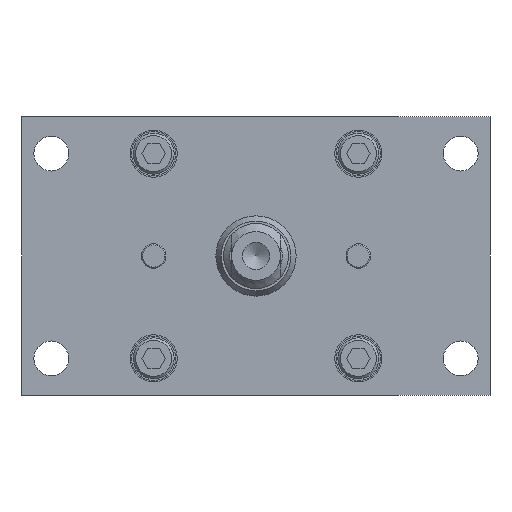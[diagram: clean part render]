
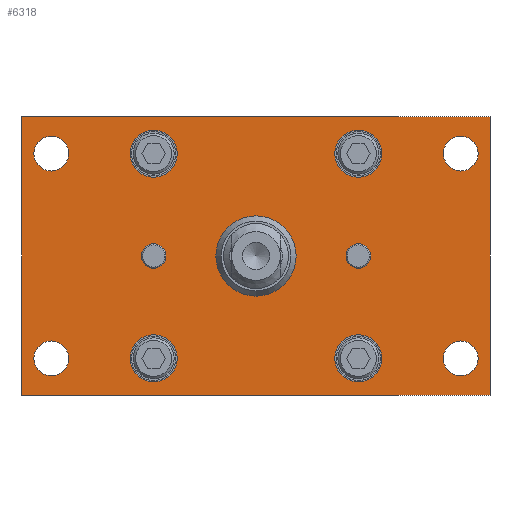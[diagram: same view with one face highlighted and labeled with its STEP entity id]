
A CAD part, front view. The second image highlights one B-rep face of the part: STEP entity #6318.
In plain terms, the highlighted planar face has unit normal (0, -1, 0) as drawn and (0, 0, -1) by its records, which use the part's own axes.
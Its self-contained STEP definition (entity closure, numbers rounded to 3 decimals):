
#164=FACE_BOUND('',#2213,.T.);
#165=FACE_BOUND('',#2214,.T.);
#166=FACE_BOUND('',#2215,.T.);
#167=FACE_BOUND('',#2216,.T.);
#168=FACE_BOUND('',#2217,.T.);
#169=FACE_BOUND('',#2218,.T.);
#170=FACE_BOUND('',#2219,.T.);
#171=FACE_BOUND('',#2220,.T.);
#172=FACE_BOUND('',#2221,.T.);
#173=FACE_BOUND('',#2222,.T.);
#174=FACE_BOUND('',#2223,.T.);
#518=PLANE('',#7174);
#905=LINE('',#10779,#1376);
#908=LINE('',#10784,#1379);
#910=LINE('',#10788,#1381);
#912=LINE('',#10791,#1383);
#1376=VECTOR('',#8713,10.);
#1379=VECTOR('',#8718,10.);
#1381=VECTOR('',#8722,10.);
#1383=VECTOR('',#8726,10.);
#1834=FACE_OUTER_BOUND('',#2212,.T.);
#2212=EDGE_LOOP('',(#5418,#5419,#5420,#5421));
#2213=EDGE_LOOP('',(#5422));
#2214=EDGE_LOOP('',(#5423,#5424));
#2215=EDGE_LOOP('',(#5425,#5426));
#2216=EDGE_LOOP('',(#5427,#5428));
#2217=EDGE_LOOP('',(#5429,#5430));
#2218=EDGE_LOOP('',(#5431,#5432));
#2219=EDGE_LOOP('',(#5433,#5434));
#2220=EDGE_LOOP('',(#5435,#5436));
#2221=EDGE_LOOP('',(#5437,#5438));
#2222=EDGE_LOOP('',(#5439,#5440));
#2223=EDGE_LOOP('',(#5441,#5442));
#2535=CIRCLE('',#7064,9.804);
#2572=CIRCLE('',#7115,3.);
#2573=CIRCLE('',#7116,3.);
#2574=CIRCLE('',#7118,3.);
#2575=CIRCLE('',#7119,3.);
#2576=CIRCLE('',#7121,4.25);
#2577=CIRCLE('',#7122,4.25);
#2578=CIRCLE('',#7124,4.25);
#2579=CIRCLE('',#7125,4.25);
#2580=CIRCLE('',#7127,4.25);
#2581=CIRCLE('',#7128,4.25);
#2582=CIRCLE('',#7130,4.25);
#2583=CIRCLE('',#7131,4.25);
#2589=CIRCLE('',#7142,5.75);
#2590=CIRCLE('',#7143,5.75);
#2594=CIRCLE('',#7150,5.75);
#2595=CIRCLE('',#7151,5.75);
#2599=CIRCLE('',#7158,5.75);
#2600=CIRCLE('',#7159,5.75);
#2604=CIRCLE('',#7166,5.75);
#2605=CIRCLE('',#7167,5.75);
#3094=VERTEX_POINT('',#10572);
#3133=VERTEX_POINT('',#10672);
#3134=VERTEX_POINT('',#10673);
#3135=VERTEX_POINT('',#10678);
#3136=VERTEX_POINT('',#10679);
#3137=VERTEX_POINT('',#10684);
#3138=VERTEX_POINT('',#10685);
#3139=VERTEX_POINT('',#10690);
#3140=VERTEX_POINT('',#10691);
#3141=VERTEX_POINT('',#10696);
#3142=VERTEX_POINT('',#10697);
#3143=VERTEX_POINT('',#10702);
#3144=VERTEX_POINT('',#10703);
#3150=VERTEX_POINT('',#10724);
#3151=VERTEX_POINT('',#10725);
#3155=VERTEX_POINT('',#10739);
#3156=VERTEX_POINT('',#10740);
#3160=VERTEX_POINT('',#10754);
#3161=VERTEX_POINT('',#10755);
#3165=VERTEX_POINT('',#10769);
#3166=VERTEX_POINT('',#10770);
#3167=VERTEX_POINT('',#10777);
#3168=VERTEX_POINT('',#10778);
#3169=VERTEX_POINT('',#10783);
#3170=VERTEX_POINT('',#10787);
#3876=EDGE_CURVE('',#3094,#3094,#2535,.T.);
#3923=EDGE_CURVE('',#3133,#3134,#2572,.T.);
#3924=EDGE_CURVE('',#3134,#3133,#2573,.T.);
#3926=EDGE_CURVE('',#3135,#3136,#2574,.T.);
#3927=EDGE_CURVE('',#3136,#3135,#2575,.T.);
#3929=EDGE_CURVE('',#3137,#3138,#2576,.T.);
#3930=EDGE_CURVE('',#3138,#3137,#2577,.T.);
#3932=EDGE_CURVE('',#3139,#3140,#2578,.T.);
#3933=EDGE_CURVE('',#3140,#3139,#2579,.T.);
#3935=EDGE_CURVE('',#3141,#3142,#2580,.T.);
#3936=EDGE_CURVE('',#3142,#3141,#2581,.T.);
#3938=EDGE_CURVE('',#3143,#3144,#2582,.T.);
#3939=EDGE_CURVE('',#3144,#3143,#2583,.T.);
#3948=EDGE_CURVE('',#3150,#3151,#2589,.T.);
#3949=EDGE_CURVE('',#3151,#3150,#2590,.T.);
#3955=EDGE_CURVE('',#3155,#3156,#2594,.T.);
#3956=EDGE_CURVE('',#3156,#3155,#2595,.T.);
#3962=EDGE_CURVE('',#3160,#3161,#2599,.T.);
#3963=EDGE_CURVE('',#3161,#3160,#2600,.T.);
#3969=EDGE_CURVE('',#3165,#3166,#2604,.T.);
#3970=EDGE_CURVE('',#3166,#3165,#2605,.T.);
#3973=EDGE_CURVE('',#3167,#3168,#905,.T.);
#3976=EDGE_CURVE('',#3169,#3167,#908,.T.);
#3978=EDGE_CURVE('',#3170,#3169,#910,.T.);
#3980=EDGE_CURVE('',#3168,#3170,#912,.T.);
#5418=ORIENTED_EDGE('',*,*,#3980,.F.);
#5419=ORIENTED_EDGE('',*,*,#3973,.F.);
#5420=ORIENTED_EDGE('',*,*,#3976,.F.);
#5421=ORIENTED_EDGE('',*,*,#3978,.F.);
#5422=ORIENTED_EDGE('',*,*,#3876,.T.);
#5423=ORIENTED_EDGE('',*,*,#3923,.T.);
#5424=ORIENTED_EDGE('',*,*,#3924,.T.);
#5425=ORIENTED_EDGE('',*,*,#3926,.T.);
#5426=ORIENTED_EDGE('',*,*,#3927,.T.);
#5427=ORIENTED_EDGE('',*,*,#3929,.T.);
#5428=ORIENTED_EDGE('',*,*,#3930,.T.);
#5429=ORIENTED_EDGE('',*,*,#3932,.T.);
#5430=ORIENTED_EDGE('',*,*,#3933,.T.);
#5431=ORIENTED_EDGE('',*,*,#3935,.T.);
#5432=ORIENTED_EDGE('',*,*,#3936,.T.);
#5433=ORIENTED_EDGE('',*,*,#3938,.T.);
#5434=ORIENTED_EDGE('',*,*,#3939,.T.);
#5435=ORIENTED_EDGE('',*,*,#3948,.T.);
#5436=ORIENTED_EDGE('',*,*,#3949,.T.);
#5437=ORIENTED_EDGE('',*,*,#3955,.T.);
#5438=ORIENTED_EDGE('',*,*,#3956,.T.);
#5439=ORIENTED_EDGE('',*,*,#3962,.T.);
#5440=ORIENTED_EDGE('',*,*,#3963,.T.);
#5441=ORIENTED_EDGE('',*,*,#3969,.T.);
#5442=ORIENTED_EDGE('',*,*,#3970,.T.);
#6318=ADVANCED_FACE('',(#1834,#164,#165,#166,#167,#168,#169,#170,#171,#172,
#173,#174),#518,.F.);
#7064=AXIS2_PLACEMENT_3D('',#10573,#8475,#8476);
#7115=AXIS2_PLACEMENT_3D('',#10674,#8587,#8588);
#7116=AXIS2_PLACEMENT_3D('',#10675,#8589,#8590);
#7118=AXIS2_PLACEMENT_3D('',#10680,#8594,#8595);
#7119=AXIS2_PLACEMENT_3D('',#10681,#8596,#8597);
#7121=AXIS2_PLACEMENT_3D('',#10686,#8601,#8602);
#7122=AXIS2_PLACEMENT_3D('',#10687,#8603,#8604);
#7124=AXIS2_PLACEMENT_3D('',#10692,#8608,#8609);
#7125=AXIS2_PLACEMENT_3D('',#10693,#8610,#8611);
#7127=AXIS2_PLACEMENT_3D('',#10698,#8615,#8616);
#7128=AXIS2_PLACEMENT_3D('',#10699,#8617,#8618);
#7130=AXIS2_PLACEMENT_3D('',#10704,#8622,#8623);
#7131=AXIS2_PLACEMENT_3D('',#10705,#8624,#8625);
#7142=AXIS2_PLACEMENT_3D('',#10726,#8649,#8650);
#7143=AXIS2_PLACEMENT_3D('',#10727,#8651,#8652);
#7150=AXIS2_PLACEMENT_3D('',#10741,#8667,#8668);
#7151=AXIS2_PLACEMENT_3D('',#10742,#8669,#8670);
#7158=AXIS2_PLACEMENT_3D('',#10756,#8685,#8686);
#7159=AXIS2_PLACEMENT_3D('',#10757,#8687,#8688);
#7166=AXIS2_PLACEMENT_3D('',#10771,#8703,#8704);
#7167=AXIS2_PLACEMENT_3D('',#10772,#8705,#8706);
#7174=AXIS2_PLACEMENT_3D('',#10793,#8729,#8730);
#8475=DIRECTION('center_axis',(0.,0.,1.));
#8476=DIRECTION('ref_axis',(1.,0.,0.));
#8587=DIRECTION('center_axis',(0.,0.,1.));
#8588=DIRECTION('ref_axis',(-1.,0.,0.));
#8589=DIRECTION('center_axis',(0.,0.,1.));
#8590=DIRECTION('ref_axis',(-1.,0.,0.));
#8594=DIRECTION('center_axis',(0.,0.,1.));
#8595=DIRECTION('ref_axis',(-1.,0.,0.));
#8596=DIRECTION('center_axis',(0.,0.,1.));
#8597=DIRECTION('ref_axis',(-1.,0.,0.));
#8601=DIRECTION('center_axis',(0.,0.,1.));
#8602=DIRECTION('ref_axis',(-1.,0.,0.));
#8603=DIRECTION('center_axis',(0.,0.,1.));
#8604=DIRECTION('ref_axis',(-1.,0.,0.));
#8608=DIRECTION('center_axis',(0.,0.,1.));
#8609=DIRECTION('ref_axis',(-1.,0.,0.));
#8610=DIRECTION('center_axis',(0.,0.,1.));
#8611=DIRECTION('ref_axis',(-1.,0.,0.));
#8615=DIRECTION('center_axis',(0.,0.,1.));
#8616=DIRECTION('ref_axis',(-1.,0.,0.));
#8617=DIRECTION('center_axis',(0.,0.,1.));
#8618=DIRECTION('ref_axis',(-1.,0.,0.));
#8622=DIRECTION('center_axis',(0.,0.,1.));
#8623=DIRECTION('ref_axis',(-1.,0.,0.));
#8624=DIRECTION('center_axis',(0.,0.,1.));
#8625=DIRECTION('ref_axis',(-1.,0.,0.));
#8649=DIRECTION('center_axis',(0.,0.,1.));
#8650=DIRECTION('ref_axis',(-1.,0.,0.));
#8651=DIRECTION('center_axis',(0.,0.,1.));
#8652=DIRECTION('ref_axis',(-1.,0.,0.));
#8667=DIRECTION('center_axis',(0.,0.,1.));
#8668=DIRECTION('ref_axis',(-1.,0.,0.));
#8669=DIRECTION('center_axis',(0.,0.,1.));
#8670=DIRECTION('ref_axis',(-1.,0.,0.));
#8685=DIRECTION('center_axis',(0.,0.,1.));
#8686=DIRECTION('ref_axis',(-1.,0.,0.));
#8687=DIRECTION('center_axis',(0.,0.,1.));
#8688=DIRECTION('ref_axis',(-1.,0.,0.));
#8703=DIRECTION('center_axis',(0.,0.,1.));
#8704=DIRECTION('ref_axis',(-1.,0.,0.));
#8705=DIRECTION('center_axis',(0.,0.,1.));
#8706=DIRECTION('ref_axis',(-1.,0.,0.));
#8713=DIRECTION('',(-1.,0.,0.));
#8718=DIRECTION('',(0.,1.,0.));
#8722=DIRECTION('',(1.,0.,0.));
#8726=DIRECTION('',(0.,-1.,0.));
#8729=DIRECTION('center_axis',(0.,0.,1.));
#8730=DIRECTION('ref_axis',(1.,0.,0.));
#10572=CARTESIAN_POINT('',(-9.804,0.,0.));
#10573=CARTESIAN_POINT('Origin',(0.,0.,0.));
#10672=CARTESIAN_POINT('',(-28.,0.,0.));
#10673=CARTESIAN_POINT('',(-22.,0.,0.));
#10674=CARTESIAN_POINT('Origin',(-25.,0.,0.));
#10675=CARTESIAN_POINT('Origin',(-25.,0.,0.));
#10678=CARTESIAN_POINT('',(22.,0.,0.));
#10679=CARTESIAN_POINT('',(28.,0.,0.));
#10680=CARTESIAN_POINT('Origin',(25.,0.,0.));
#10681=CARTESIAN_POINT('Origin',(25.,0.,0.));
#10684=CARTESIAN_POINT('',(45.75,25.,0.));
#10685=CARTESIAN_POINT('',(54.25,25.,0.));
#10686=CARTESIAN_POINT('Origin',(50.,25.,0.));
#10687=CARTESIAN_POINT('Origin',(50.,25.,0.));
#10690=CARTESIAN_POINT('',(-54.25,-25.,0.));
#10691=CARTESIAN_POINT('',(-45.75,-25.,0.));
#10692=CARTESIAN_POINT('Origin',(-50.,-25.,0.));
#10693=CARTESIAN_POINT('Origin',(-50.,-25.,0.));
#10696=CARTESIAN_POINT('',(-54.25,25.,0.));
#10697=CARTESIAN_POINT('',(-45.75,25.,0.));
#10698=CARTESIAN_POINT('Origin',(-50.,25.,0.));
#10699=CARTESIAN_POINT('Origin',(-50.,25.,0.));
#10702=CARTESIAN_POINT('',(45.75,-25.,0.));
#10703=CARTESIAN_POINT('',(54.25,-25.,0.));
#10704=CARTESIAN_POINT('Origin',(50.,-25.,0.));
#10705=CARTESIAN_POINT('Origin',(50.,-25.,0.));
#10724=CARTESIAN_POINT('',(19.25,25.,0.));
#10725=CARTESIAN_POINT('',(30.75,25.,0.));
#10726=CARTESIAN_POINT('Origin',(25.,25.,0.));
#10727=CARTESIAN_POINT('Origin',(25.,25.,0.));
#10739=CARTESIAN_POINT('',(-30.75,-25.,0.));
#10740=CARTESIAN_POINT('',(-19.25,-25.,0.));
#10741=CARTESIAN_POINT('Origin',(-25.,-25.,0.));
#10742=CARTESIAN_POINT('Origin',(-25.,-25.,0.));
#10754=CARTESIAN_POINT('',(19.25,-25.,0.));
#10755=CARTESIAN_POINT('',(30.75,-25.,0.));
#10756=CARTESIAN_POINT('Origin',(25.,-25.,0.));
#10757=CARTESIAN_POINT('Origin',(25.,-25.,0.));
#10769=CARTESIAN_POINT('',(-30.75,25.,0.));
#10770=CARTESIAN_POINT('',(-19.25,25.,0.));
#10771=CARTESIAN_POINT('Origin',(-25.,25.,0.));
#10772=CARTESIAN_POINT('Origin',(-25.,25.,0.));
#10777=CARTESIAN_POINT('',(57.15,34.,0.));
#10778=CARTESIAN_POINT('',(-57.15,34.,0.));
#10779=CARTESIAN_POINT('',(57.15,34.,0.));
#10783=CARTESIAN_POINT('',(57.15,-34.,0.));
#10784=CARTESIAN_POINT('',(57.15,-34.,0.));
#10787=CARTESIAN_POINT('',(-57.15,-34.,0.));
#10788=CARTESIAN_POINT('',(-57.15,-34.,0.));
#10791=CARTESIAN_POINT('',(-57.15,34.,0.));
#10793=CARTESIAN_POINT('Origin',(0.,0.,
0.));
